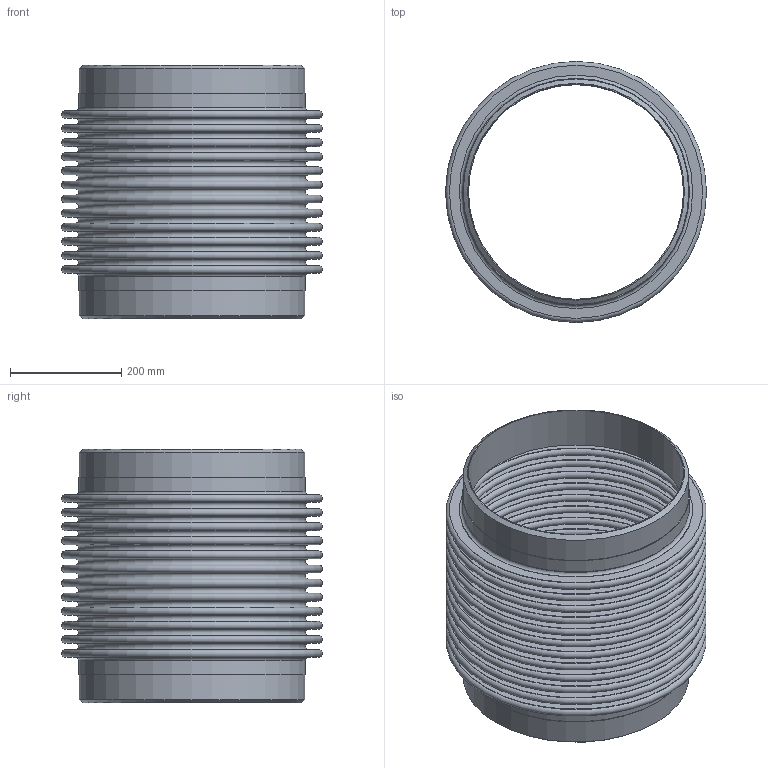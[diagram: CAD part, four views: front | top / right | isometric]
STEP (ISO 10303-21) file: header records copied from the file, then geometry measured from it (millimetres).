
FILE_DESCRIPTION(/* description */ ('EXPANSION JOINT,SINGLE, WELD ENDS,4 INCH NOMINAL'),/* implementation_level */ '2;1');
FILE_NAME(/* name */ 'ASSEMBLY US-16-12-85L.stp',/* time_stamp */ '2026-07-30T07:40:20-05:00',/* author */ ('jorgef'),/* organization */ (''),/* preprocessor_version */ 'ST-DEVELOPER v20.1',/* originating_system */ 'Autodesk Inventor 2026',/* authorisation */ '');
FILE_SCHEMA (('AUTOMOTIVE_DESIGN { 1 0 10303 214 3 1 1 }'));
Length unit declared in the file: inch
Products named in the file (3): ASSEMBLY  US-16-12-85L; STOCK BELLOW - US-16-12-85L; PIPE- US-16-12-85L
Assembly tree (3 placements, depth 2):
  ASSEMBLY  US-16-12-85L
    STOCK BELLOW - US-16-12-85L
    PIPE- US-16-12-85L  x2
Bounding box: 469.9 x 469.9 x 457.2 mm (x, y, z)
Volume: 3349956.4 mm3; surface area: 3052806.3 mm2
Topology: 5 solids, 5 shells, 118 faces, 180 edges, 121 vertices
Faces by surface type: plane 58, torus 50, cylinder 8, cone 2
Full cylindrical faces by diameter (mm): 387.35 x2, 406.4 x4, 408.838 x2
Entity records: 2769 total; most frequent: DIRECTION 573, CARTESIAN_POINT 405, ORIENTED_EDGE 342, AXIS2_PLACEMENT_3D 283, EDGE_CURVE 171, EDGE_LOOP 169, CIRCLE 164, VERTEX_POINT 114
